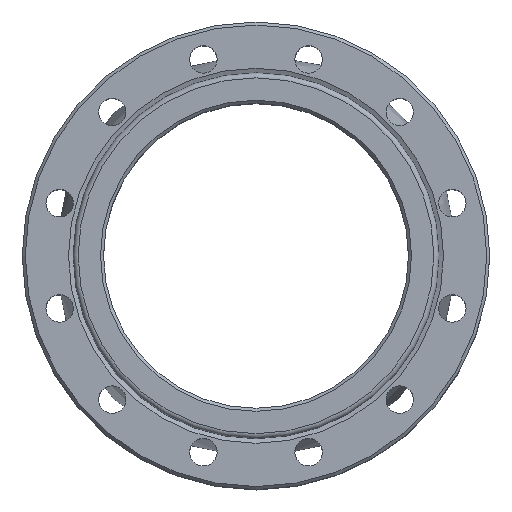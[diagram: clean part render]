
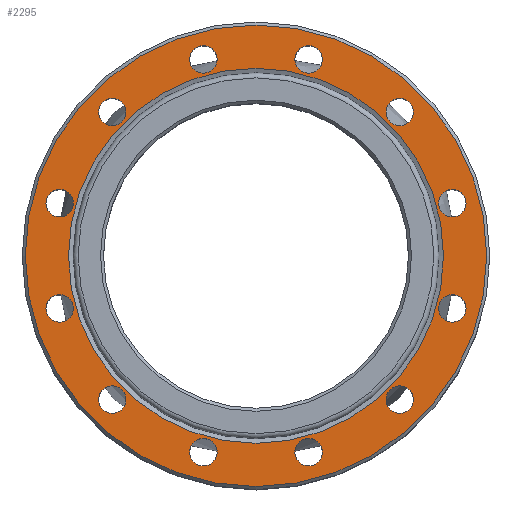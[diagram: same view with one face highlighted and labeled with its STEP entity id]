
A CAD part, top view. The second image highlights one B-rep face of the part: STEP entity #2295.
In plain terms, the highlighted planar face has unit normal (0, 0, 1).
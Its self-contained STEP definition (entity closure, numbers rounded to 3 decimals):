
#405=FACE_BOUND('',#721,.T.);
#406=FACE_BOUND('',#722,.T.);
#407=FACE_BOUND('',#723,.T.);
#408=FACE_BOUND('',#724,.T.);
#409=FACE_BOUND('',#725,.T.);
#410=FACE_BOUND('',#726,.T.);
#411=FACE_BOUND('',#727,.T.);
#412=FACE_BOUND('',#728,.T.);
#413=FACE_BOUND('',#729,.T.);
#414=FACE_BOUND('',#730,.T.);
#415=FACE_BOUND('',#731,.T.);
#416=FACE_BOUND('',#732,.T.);
#417=FACE_BOUND('',#733,.T.);
#460=PLANE('',#2553);
#561=FACE_OUTER_BOUND('',#720,.T.);
#720=EDGE_LOOP('',(#2002));
#721=EDGE_LOOP('',(#2003));
#722=EDGE_LOOP('',(#2004));
#723=EDGE_LOOP('',(#2005));
#724=EDGE_LOOP('',(#2006));
#725=EDGE_LOOP('',(#2007));
#726=EDGE_LOOP('',(#2008));
#727=EDGE_LOOP('',(#2009));
#728=EDGE_LOOP('',(#2010));
#729=EDGE_LOOP('',(#2011));
#730=EDGE_LOOP('',(#2012));
#731=EDGE_LOOP('',(#2013));
#732=EDGE_LOOP('',(#2014));
#733=EDGE_LOOP('',(#2015));
#900=CIRCLE('',#2552,227.);
#901=CIRCLE('',#2554,13.5);
#902=CIRCLE('',#2555,13.5);
#903=CIRCLE('',#2556,13.5);
#904=CIRCLE('',#2557,13.5);
#905=CIRCLE('',#2558,13.5);
#906=CIRCLE('',#2559,13.5);
#907=CIRCLE('',#2560,13.5);
#908=CIRCLE('',#2561,13.5);
#909=CIRCLE('',#2562,13.5);
#910=CIRCLE('',#2563,13.5);
#911=CIRCLE('',#2564,13.5);
#912=CIRCLE('',#2565,13.5);
#913=CIRCLE('',#2566,184.451);
#1111=VERTEX_POINT('',#4857);
#1112=VERTEX_POINT('',#4861);
#1113=VERTEX_POINT('',#4863);
#1114=VERTEX_POINT('',#4865);
#1115=VERTEX_POINT('',#4867);
#1116=VERTEX_POINT('',#4869);
#1117=VERTEX_POINT('',#4871);
#1118=VERTEX_POINT('',#4873);
#1119=VERTEX_POINT('',#4875);
#1120=VERTEX_POINT('',#4877);
#1121=VERTEX_POINT('',#4879);
#1122=VERTEX_POINT('',#4881);
#1123=VERTEX_POINT('',#4883);
#1124=VERTEX_POINT('',#4885);
#1415=EDGE_CURVE('',#1111,#1111,#900,.T.);
#1416=EDGE_CURVE('',#1112,#1112,#901,.T.);
#1417=EDGE_CURVE('',#1113,#1113,#902,.T.);
#1418=EDGE_CURVE('',#1114,#1114,#903,.T.);
#1419=EDGE_CURVE('',#1115,#1115,#904,.T.);
#1420=EDGE_CURVE('',#1116,#1116,#905,.T.);
#1421=EDGE_CURVE('',#1117,#1117,#906,.T.);
#1422=EDGE_CURVE('',#1118,#1118,#907,.T.);
#1423=EDGE_CURVE('',#1119,#1119,#908,.T.);
#1424=EDGE_CURVE('',#1120,#1120,#909,.T.);
#1425=EDGE_CURVE('',#1121,#1121,#910,.T.);
#1426=EDGE_CURVE('',#1122,#1122,#911,.T.);
#1427=EDGE_CURVE('',#1123,#1123,#912,.T.);
#1428=EDGE_CURVE('',#1124,#1124,#913,.F.);
#2002=ORIENTED_EDGE('',*,*,#1415,.F.);
#2003=ORIENTED_EDGE('',*,*,#1416,.F.);
#2004=ORIENTED_EDGE('',*,*,#1417,.F.);
#2005=ORIENTED_EDGE('',*,*,#1418,.F.);
#2006=ORIENTED_EDGE('',*,*,#1419,.F.);
#2007=ORIENTED_EDGE('',*,*,#1420,.F.);
#2008=ORIENTED_EDGE('',*,*,#1421,.F.);
#2009=ORIENTED_EDGE('',*,*,#1422,.F.);
#2010=ORIENTED_EDGE('',*,*,#1423,.F.);
#2011=ORIENTED_EDGE('',*,*,#1424,.F.);
#2012=ORIENTED_EDGE('',*,*,#1425,.F.);
#2013=ORIENTED_EDGE('',*,*,#1426,.F.);
#2014=ORIENTED_EDGE('',*,*,#1427,.F.);
#2015=ORIENTED_EDGE('',*,*,#1428,.T.);
#2295=ADVANCED_FACE('',(#561,#405,#406,#407,#408,#409,#410,#411,#412,#413,
#414,#415,#416,#417),#460,.F.);
#2552=AXIS2_PLACEMENT_3D('',#4859,#3116,#3117);
#2553=AXIS2_PLACEMENT_3D('',#4860,#3118,#3119);
#2554=AXIS2_PLACEMENT_3D('',#4862,#3120,#3121);
#2555=AXIS2_PLACEMENT_3D('',#4864,#3122,#3123);
#2556=AXIS2_PLACEMENT_3D('',#4866,#3124,#3125);
#2557=AXIS2_PLACEMENT_3D('',#4868,#3126,#3127);
#2558=AXIS2_PLACEMENT_3D('',#4870,#3128,#3129);
#2559=AXIS2_PLACEMENT_3D('',#4872,#3130,#3131);
#2560=AXIS2_PLACEMENT_3D('',#4874,#3132,#3133);
#2561=AXIS2_PLACEMENT_3D('',#4876,#3134,#3135);
#2562=AXIS2_PLACEMENT_3D('',#4878,#3136,#3137);
#2563=AXIS2_PLACEMENT_3D('',#4880,#3138,#3139);
#2564=AXIS2_PLACEMENT_3D('',#4882,#3140,#3141);
#2565=AXIS2_PLACEMENT_3D('',#4884,#3142,#3143);
#2566=AXIS2_PLACEMENT_3D('',#4886,#3144,#3145);
#3116=DIRECTION('center_axis',(0.,0.,-1.));
#3117=DIRECTION('ref_axis',(1.,0.,0.));
#3118=DIRECTION('center_axis',(0.,0.,-1.));
#3119=DIRECTION('ref_axis',(-1.,0.,0.));
#3120=DIRECTION('center_axis',(0.,0.,1.));
#3121=DIRECTION('ref_axis',(1.,0.,0.));
#3122=DIRECTION('center_axis',(0.,0.,1.));
#3123=DIRECTION('ref_axis',(1.,0.,0.));
#3124=DIRECTION('center_axis',(0.,0.,1.));
#3125=DIRECTION('ref_axis',(1.,0.,0.));
#3126=DIRECTION('center_axis',(0.,0.,1.));
#3127=DIRECTION('ref_axis',(1.,0.,0.));
#3128=DIRECTION('center_axis',(0.,0.,1.));
#3129=DIRECTION('ref_axis',(1.,0.,0.));
#3130=DIRECTION('center_axis',(0.,0.,1.));
#3131=DIRECTION('ref_axis',(1.,0.,0.));
#3132=DIRECTION('center_axis',(0.,0.,1.));
#3133=DIRECTION('ref_axis',(1.,0.,0.));
#3134=DIRECTION('center_axis',(0.,0.,1.));
#3135=DIRECTION('ref_axis',(1.,0.,0.));
#3136=DIRECTION('center_axis',(0.,0.,1.));
#3137=DIRECTION('ref_axis',(1.,0.,0.));
#3138=DIRECTION('center_axis',(0.,0.,1.));
#3139=DIRECTION('ref_axis',(1.,0.,0.));
#3140=DIRECTION('center_axis',(0.,0.,1.));
#3141=DIRECTION('ref_axis',(1.,0.,0.));
#3142=DIRECTION('center_axis',(0.,0.,1.));
#3143=DIRECTION('ref_axis',(1.,0.,0.));
#3144=DIRECTION('center_axis',(0.,0.,1.));
#3145=DIRECTION('ref_axis',(0.,1.,0.));
#4857=CARTESIAN_POINT('',(-227.,0.,118.5));
#4859=CARTESIAN_POINT('Origin',(0.,0.,118.5));
#4860=CARTESIAN_POINT('Origin',(0.,0.,118.5));
#4861=CARTESIAN_POINT('',(-206.685,51.764,118.5));
#4862=CARTESIAN_POINT('Origin',(-193.185,51.764,118.5));
#4863=CARTESIAN_POINT('',(-206.685,-51.764,118.5));
#4864=CARTESIAN_POINT('Origin',(-193.185,-51.764,118.5));
#4865=CARTESIAN_POINT('',(-154.921,-141.421,118.5));
#4866=CARTESIAN_POINT('Origin',(-141.421,-141.421,118.5));
#4867=CARTESIAN_POINT('',(-65.264,-193.185,118.5));
#4868=CARTESIAN_POINT('Origin',(-51.764,-193.185,118.5));
#4869=CARTESIAN_POINT('',(38.264,-193.185,118.5));
#4870=CARTESIAN_POINT('Origin',(51.764,-193.185,118.5));
#4871=CARTESIAN_POINT('',(127.921,-141.421,118.5));
#4872=CARTESIAN_POINT('Origin',(141.421,-141.421,118.5));
#4873=CARTESIAN_POINT('',(179.685,-51.764,118.5));
#4874=CARTESIAN_POINT('Origin',(193.185,-51.764,118.5));
#4875=CARTESIAN_POINT('',(179.685,51.764,118.5));
#4876=CARTESIAN_POINT('Origin',(193.185,51.764,118.5));
#4877=CARTESIAN_POINT('',(127.921,141.421,118.5));
#4878=CARTESIAN_POINT('Origin',(141.421,141.421,118.5));
#4879=CARTESIAN_POINT('',(38.264,193.185,118.5));
#4880=CARTESIAN_POINT('Origin',(51.764,193.185,118.5));
#4881=CARTESIAN_POINT('',(-65.264,193.185,118.5));
#4882=CARTESIAN_POINT('Origin',(-51.764,193.185,118.5));
#4883=CARTESIAN_POINT('',(-154.921,141.421,118.5));
#4884=CARTESIAN_POINT('Origin',(-141.421,141.421,118.5));
#4885=CARTESIAN_POINT('',(0.,-184.451,118.5));
#4886=CARTESIAN_POINT('Origin',(0.,0.,118.5));
